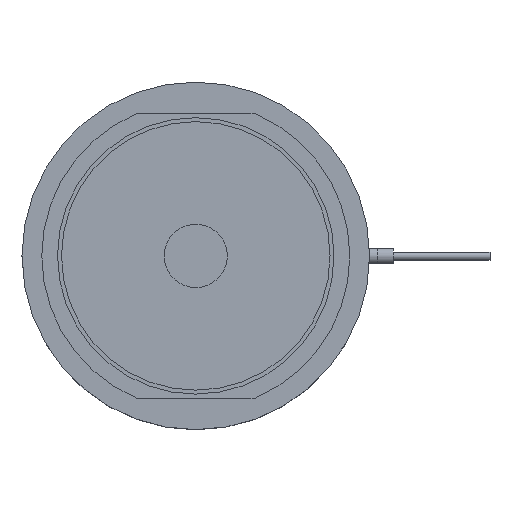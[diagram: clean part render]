
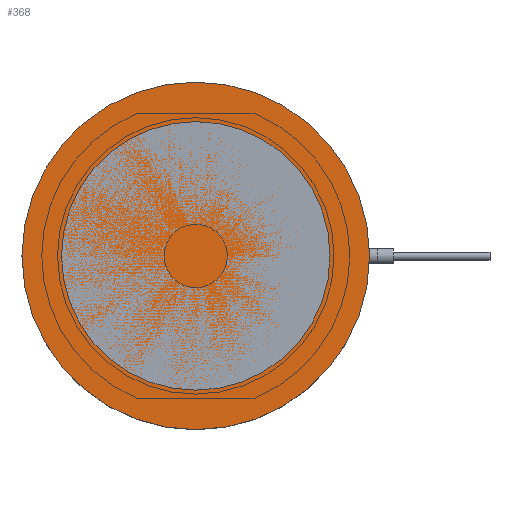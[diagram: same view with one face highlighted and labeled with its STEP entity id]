
A CAD part, top view. The second image highlights one B-rep face of the part: STEP entity #368.
In plain terms, the highlighted planar face has unit normal (0, 0, 1).
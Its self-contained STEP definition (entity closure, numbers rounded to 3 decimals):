
#220=PLANE('',#1293);
#276=FACE_OUTER_BOUND('',#613,.T.);
#368=ADVANCED_FACE('',(#276),#220,.F.);
#613=EDGE_LOOP('',(#841));
#841=ORIENTED_EDGE('',*,*,#1056,.F.);
#941=VERTEX_POINT('',#2069);
#1056=EDGE_CURVE('',#941,#941,#1134,.T.);
#1134=CIRCLE('',#1292,22.);
#1292=AXIS2_PLACEMENT_3D('',#2068,#1637,#1638);
#1293=AXIS2_PLACEMENT_3D('',#2070,#1639,#1640);
#1637=DIRECTION('',(0.,0.,-1.));
#1638=DIRECTION('',(-1.,0.,0.));
#1639=DIRECTION('',(0.,0.,-1.));
#1640=DIRECTION('',(-1.,0.,0.));
#2068=CARTESIAN_POINT('',(0.,0.,0.));
#2069=CARTESIAN_POINT('',(-22.,0.,0.));
#2070=CARTESIAN_POINT('',(0.,0.,0.));
